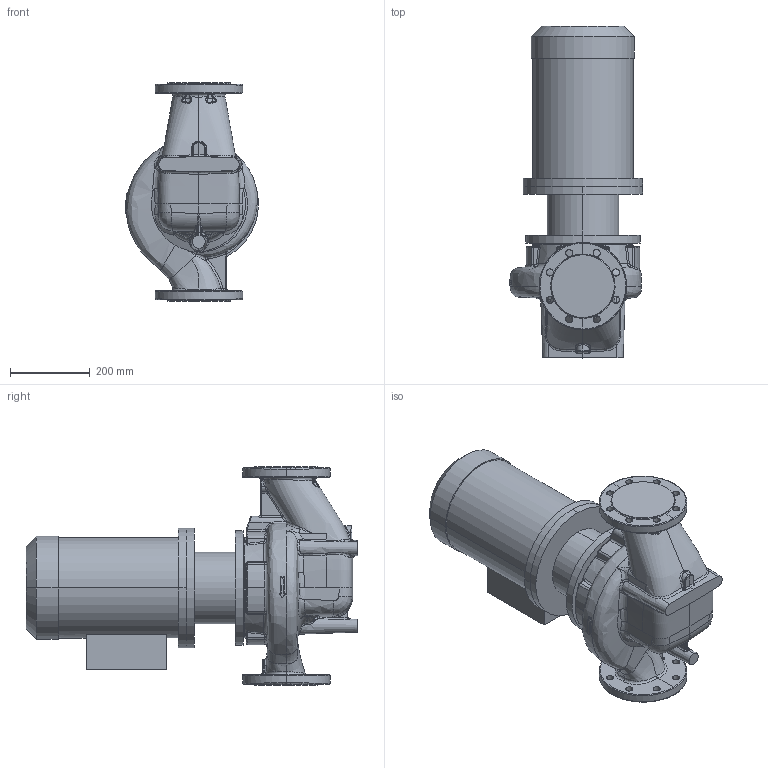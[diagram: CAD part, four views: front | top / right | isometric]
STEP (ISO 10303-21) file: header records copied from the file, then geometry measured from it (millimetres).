
FILE_DESCRIPTION (( 'STEP AP214' ), '1' );
FILE_NAME ('KRL 100-200-4-5,5.STEP', '2026-04-03T06:31:59', ( '' ), ( '' ), 'SwSTEP 2.0', 'SolidWorks 2016', '' );
FILE_SCHEMA (( 'AUTOMOTIVE_DESIGN' ));
Length unit declared in the file: millimetre
Products named in the file (1): KRL 100-200-4-5,5
Bounding box: 334.71 x 834.8 x 550 mm (x, y, z)
Volume: 49141792.8 mm3; surface area: 1605892.7 mm2
Topology: 4 solids, 4 shells, 785 faces, 1887 edges, 1096 vertices
Faces by surface type: bspline 397, cylinder 180, plane 106, sphere 39, torus 33, cone 30
Entity records: 70711 total; most frequent: CARTESIAN_POINT 47356, ORIENTED_EDGE 3704, DIRECTION 2226, EDGE_CURVE 1852, VERTEX_POINT 1094, AXIS2_PLACEMENT_3D 964, EDGE_LOOP 836, UNCERTAINTY_MEASURE_WITH_UNIT 791
